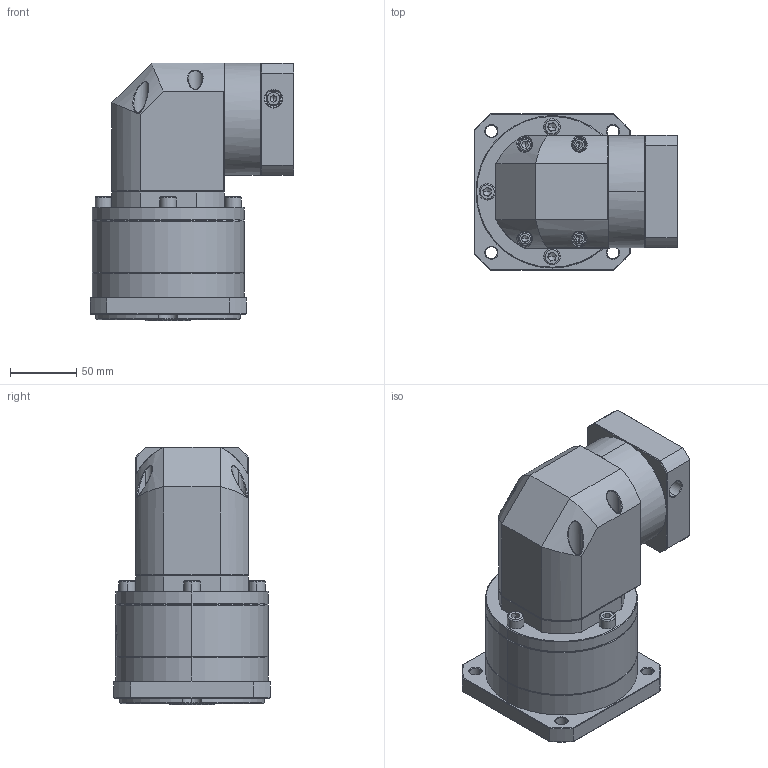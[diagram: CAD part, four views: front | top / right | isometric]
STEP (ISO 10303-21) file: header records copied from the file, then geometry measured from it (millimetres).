
FILE_DESCRIPTION (( 'STEP AP214' ), '1' );
FILE_NAME ('ZFR120A-K25-L2-P2-12.7-73-69.6X69.6-M6.step', '2023-08-27T09:20:08', ( '' ), ( '' ), 'SwSTEP 2.0', 'SolidWorks 2016', '' );
FILE_SCHEMA (( 'AUTOMOTIVE_DESIGN' ));
Length unit declared in the file: millimetre
Products named in the file (1): ZFR120A-K25-L2-P2-12.7-73-69.6X69.6-M6
Bounding box: 154.1 x 118 x 195 mm (x, y, z)
Volume: 1808518.2 mm3; surface area: 168974.2 mm2
Topology: 6 solids, 6 shells, 2337 faces, 6111 edges, 3880 vertices
Faces by surface type: plane 1148, bspline 434, cylinder 420, cone 321, torus 14
Entity records: 124451 total; most frequent: CARTESIAN_POINT 46786, ORIENTED_EDGE 12134, DIRECTION 8957, EDGE_CURVE 6067, VERTEX_POINT 3880, LINE 3285, VECTOR 3285, AXIS2_PLACEMENT_3D 2836
